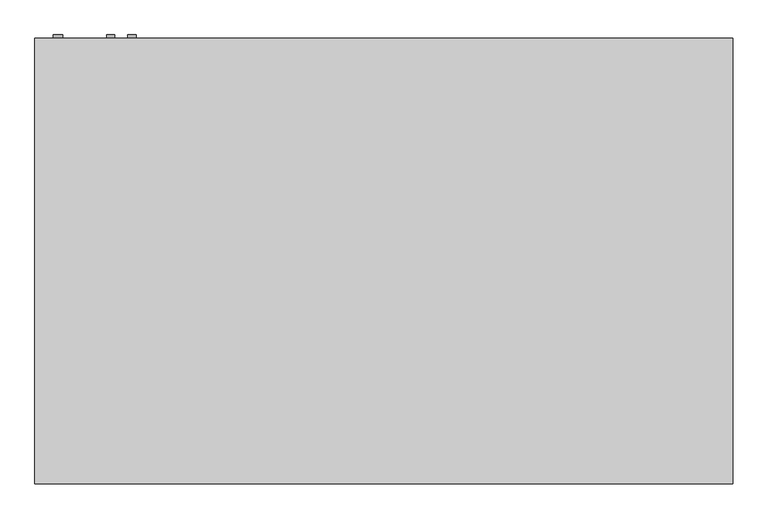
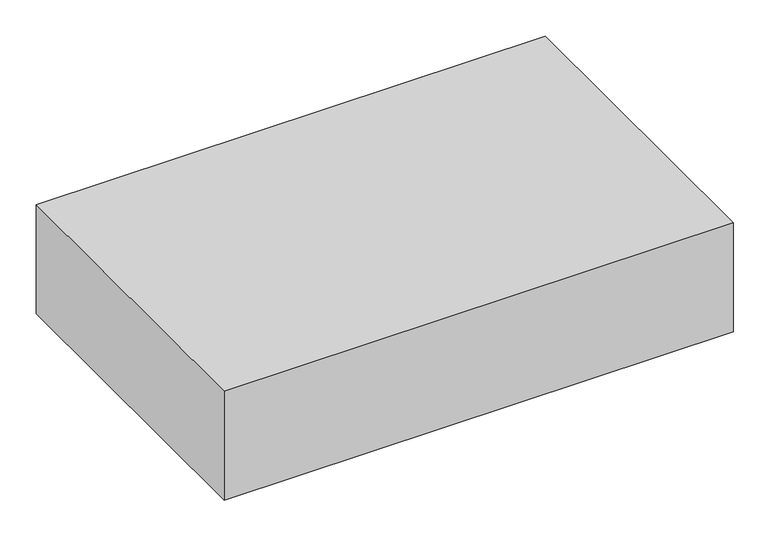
"""IFC4 building model written with IfcOpenShell, lengths in millimetres: proxy geometry, Exposed_Horizontal_Fan_Coil_Unit_-_42CGB_-_CARRIER_-_2-Pipe_Cool-EHeat_BS-BR_LH_2022 : Size 06 - 277v/60Hz/1Ph - 4 Row 6.0kW."""

import ifcopenshell
import ifcopenshell.guid

model = None  # the IFC model being written
_history = None  # IfcOwnerHistory: only IFC2X3 demands one
_inside = {}  # id of a spatial element -> (the spatial element, [elements in it])
_under = {}  # id of a project, library or spatial element -> (it, [spatial elements below it])
_declared = {}  # id of a project -> (the project, [libraries it declares])
_typed = {}  # id of a type object -> (the type object, [elements of that type])
_made_of = {}  # id of a material, layer set ... -> (it, [elements and type objects made of it])


def new_model(schema):
    """Start an empty IFC model of exactly this schema.

    Asked for "IFC4X3", IfcOpenShell would pick the latest addendum, in which some entities
    have other attributes; the version numbers below select the first issue.
    IFC2X3 requires an IfcOwnerHistory on every rooted entity: one is made here for all.
    """
    global model, _history
    if schema == "IFC4X3":
        model = ifcopenshell.file(schema_version=(4, 3, 0, 0))
    else:
        model = ifcopenshell.file(schema=schema)
    _inside.clear()
    _under.clear()
    _declared.clear()
    _typed.clear()
    _made_of.clear()
    _history = None
    if model.schema == "IFC2X3":
        org = make("IfcOrganization", Name="unknown")
        user = make(
            "IfcPersonAndOrganization",
            ThePerson=make("IfcPerson", FamilyName="unknown"),
            TheOrganization=org,
        )
        app = make(
            "IfcApplication",
            ApplicationDeveloper=org,
            Version="unknown",
            ApplicationFullName="unknown",
            ApplicationIdentifier="unknown",
        )
        _history = make(
            "IfcOwnerHistory",
            OwningUser=user,
            OwningApplication=app,
            ChangeAction="ADDED",
            CreationDate=0,
        )
    return model


def make(cls, **values):
    """One entity of the class cls with the attributes given. An attribute that is None is left unset."""
    return model.create_entity(
        cls, **{name: value for name, value in values.items() if value is not None}
    )


def rooted(cls, **values):
    """An entity with a GlobalId (a new one), such as an element, a storey or a relation."""
    return make(cls, GlobalId=ifcopenshell.guid.new(), OwnerHistory=_history, **values)


def si_unit(unit_type, name, prefix=None):
    """IfcSIUnit, for example si_unit("LENGTHUNIT", "METRE", prefix="MILLI")."""
    return make("IfcSIUnit", UnitType=unit_type, Prefix=prefix, Name=name)


def assignment(units):
    """IfcUnitAssignment: the units of a project."""
    return None if units is None else make("IfcUnitAssignment", Units=units)


def point(xyz):
    """IfcCartesianPoint."""
    return None if xyz is None else make("IfcCartesianPoint", Coordinates=xyz)


def direction(xyz):
    """IfcDirection."""
    return None if xyz is None else make("IfcDirection", DirectionRatios=xyz)


def frame(location, z_axis=None, x_axis=None):
    """IfcAxis2Placement3D, a coordinate frame: its origin and axes. An axis left out is left unset."""
    return make(
        "IfcAxis2Placement3D",
        Location=point(location),
        Axis=direction(z_axis),
        RefDirection=direction(x_axis),
    )


def frame_2d(location, x_axis=None):
    """IfcAxis2Placement2D, a coordinate frame in the plane: its origin and x axis."""
    return make(
        "IfcAxis2Placement2D", Location=point(location), RefDirection=direction(x_axis)
    )


def origin():
    """The frame at (0, 0, 0) with its axes left unset."""
    return frame((0.0, 0.0, 0.0))


def place(relative_to, where):
    """IfcLocalPlacement: puts the frame where relative to a parent placement (None: the world)."""
    return make(
        "IfcLocalPlacement", PlacementRelTo=relative_to, RelativePlacement=where
    )


def context(
    kind, dimensions, precision=None, world=None, true_north=None, identifier=None
):
    """IfcGeometricRepresentationContext, for example the 3D "Model" context."""
    return make(
        "IfcGeometricRepresentationContext",
        ContextIdentifier=identifier,
        ContextType=kind,
        CoordinateSpaceDimension=dimensions,
        Precision=precision,
        WorldCoordinateSystem=world,
        TrueNorth=true_north,
    )


def project(units=None, contexts=None):
    """IfcProject with its units and contexts."""
    return rooted(
        "IfcProject",
        Name="project",
        RepresentationContexts=contexts,
        UnitsInContext=assignment(units),
    )


def spatial(cls, under=None, at=None, **own):
    """A site, building, storey or space (cls), placed at a placement, below another one or the project."""
    s = rooted(cls, ObjectPlacement=at, **own)
    if under is not None:
        _under.setdefault(under.id(), (under, []))[1].append(s)
    return s


def polyline(points):
    """IfcPolyline through the points."""
    return make("IfcPolyline", Points=[point(p) for p in points])


def circle_curve(where, radius):
    """IfcCircle in the frame where."""
    return make("IfcCircle", Position=where, Radius=radius)


def trimmed(basis, trim1, trim2, sense, master):
    """IfcTrimmedCurve: the piece of a basis curve between two trims."""
    return make(
        "IfcTrimmedCurve",
        BasisCurve=basis,
        Trim1=trim1,
        Trim2=trim2,
        SenseAgreement=sense,
        MasterRepresentation=master,
    )


def segment(curve, same_sense, transition):
    """IfcCompositeCurveSegment."""
    return make(
        "IfcCompositeCurveSegment",
        Transition=transition,
        SameSense=same_sense,
        ParentCurve=curve,
    )


def composite_curve(segments, self_intersect=None):
    """IfcCompositeCurve: segments joined end to end."""
    return make("IfcCompositeCurve", Segments=segments, SelfIntersect=self_intersect)


def outline(outer, holes=None, kind="AREA"):
    """IfcArbitraryClosedProfileDef: a profile drawn as a closed curve; with holes, ...WithVoids."""
    if holes is None:
        return make("IfcArbitraryClosedProfileDef", ProfileType=kind, OuterCurve=outer)
    return make(
        "IfcArbitraryProfileDefWithVoids",
        ProfileType=kind,
        OuterCurve=outer,
        InnerCurves=holes,
    )


def extrude(swept, where, along, depth):
    """IfcExtrudedAreaSolid: the profile swept, set in the frame where, extruded along a direction by depth."""
    return make(
        "IfcExtrudedAreaSolid",
        SweptArea=swept,
        Position=where,
        ExtrudedDirection=direction(along),
        Depth=depth,
    )


def shape(context_of_items, identifier, shape_type, items):
    """IfcShapeRepresentation: the items that make up one representation, for example the "Body"."""
    return make(
        "IfcShapeRepresentation",
        ContextOfItems=context_of_items,
        RepresentationIdentifier=identifier,
        RepresentationType=shape_type,
        Items=items,
    )


def source(mapping_origin, context_of_items, identifier, shape_type, items):
    """IfcRepresentationMap: a shape defined once, which mapped items show again and again."""
    return make(
        "IfcRepresentationMap",
        MappingOrigin=mapping_origin,
        MappedRepresentation=shape(context_of_items, identifier, shape_type, items),
    )


def transform(
    local_origin,
    x_axis=None,
    y_axis=None,
    z_axis=None,
    scale=None,
    scale2=None,
    scale3=None,
    uniform=True,
):
    """IfcCartesianTransformationOperator3D, or its non-uniform kind. x_axis, y_axis, z_axis: its Axis1, 2, 3."""
    if uniform:
        return make(
            "IfcCartesianTransformationOperator3D",
            Axis1=direction(x_axis),
            Axis2=direction(y_axis),
            LocalOrigin=point(local_origin),
            Scale=scale,
            Axis3=direction(z_axis),
        )
    return make(
        "IfcCartesianTransformationOperator3DnonUniform",
        Axis1=direction(x_axis),
        Axis2=direction(y_axis),
        LocalOrigin=point(local_origin),
        Scale=scale,
        Axis3=direction(z_axis),
        Scale2=scale2,
        Scale3=scale3,
    )


def mapped(mapping_source, mapping_target):
    """IfcMappedItem: shows the shape of a source again, moved by a transform."""
    return make(
        "IfcMappedItem", MappingSource=mapping_source, MappingTarget=mapping_target
    )


def made_of(thing, what):
    """Note that an element or type object is made of a material, layer set ...; save() writes the relation."""
    if what is not None:
        _made_of.setdefault(what.id(), (what, []))[1].append(thing)
    return thing


def element(
    cls,
    number,
    at=None,
    inside=None,
    cuts=None,
    type_object=None,
    material=None,
    context=None,
    identifier="Body",
    shape_type=None,
    held_by="IfcProductDefinitionShape",
    body=None,
    shapes=None,
    **own,
):
    """One element of the class cls, such as IfcWall. Its Tag is "e" and its number.

    at: its placement. inside: the storey or other place that contains it. cuts: it is an
    opening in that element (IfcRelVoidsElement). A single representation is given by context,
    identifier, shape_type and body (its items); several are given by shapes. held_by: the class
    of the entity that holds the representations. save() writes the other relations.
    """
    e = rooted(cls, Tag="e%d" % number, ObjectPlacement=at, **own)
    if body is not None:
        shapes = [shape(context, identifier, shape_type, body)]
    if shapes is not None:
        e.Representation = make(held_by, Representations=shapes)
    if inside is not None:
        _inside.setdefault(inside.id(), (inside, []))[1].append(e)
    if cuts is not None:
        rooted(
            "IfcRelVoidsElement", RelatingBuildingElement=cuts, RelatedOpeningElement=e
        )
    if type_object is not None:
        _typed.setdefault(type_object.id(), (type_object, []))[1].append(e)
    return made_of(e, material)


def aggregate(whole, parts):
    """IfcRelAggregates: a whole, such as a stair, and the parts it consists of."""
    return rooted("IfcRelAggregates", RelatingObject=whole, RelatedObjects=parts)


def save(model, path):
    """Write the relations noted so far, then the file.

    IfcRelAggregates (storeys below a building ...), IfcRelContainedInSpatialStructure (elements
    in a storey), IfcRelDefinesByType, IfcRelAssociatesMaterial and IfcRelDeclares: one each for
    every whole, place, type object, material and project.
    """
    for whole, parts in _under.values():
        aggregate(whole, parts)
    for where, things in _inside.values():
        rooted(
            "IfcRelContainedInSpatialStructure",
            RelatedElements=things,
            RelatingStructure=where,
        )
    for kind, things in _typed.values():
        rooted("IfcRelDefinesByType", RelatedObjects=things, RelatingType=kind)
    for what, things in _made_of.values():
        rooted("IfcRelAssociatesMaterial", RelatedObjects=things, RelatingMaterial=what)
    for by, libraries in _declared.values():
        rooted("IfcRelDeclares", RelatingContext=by, RelatedDefinitions=libraries)
    model.write(path)


def mechanical_equipment_149bba12(model_context):
    return source(origin(), model_context, "Body", "SweptSolid", [
        extrude(outline(polyline([(592.1375, -439.7375), (592.1375, -611.1875), (-287.3375, -611.1875), (-287.3375, -439.7375), (592.1375, -439.7375)])), frame((0.0, 0.0, -311.15), z_axis=(0.0, 0.0, 1.0), x_axis=(1.0, 0.0, 0.0)), (0.0, 0.0, 1.0), 6.35),
        extrude(outline(composite_curve([segment(trimmed(circle_curve(frame_2d((-60.325, -333.375)), 7.9375), [point((-60.325, -325.4375))], [point((-60.325, -341.3125))], False, "CARTESIAN"), True, "CONTINUOUS"), segment(trimmed(circle_curve(frame_2d((-60.325, -333.375)), 7.9375), [point((-60.325, -341.3125))], [point((-60.325, -325.4375))], False, "CARTESIAN"), True, "CONTINUOUS")], self_intersect=False)), frame((0.0, 192.0875, 0.0), z_axis=(0.0, 1.0, 0.0), x_axis=(0.0, 0.0, 1.0)), (0.0, 0.0, 1.0), 6.35),
        extrude(outline(composite_curve([segment(trimmed(circle_curve(frame_2d((-95.25, -374.65)), 7.9375), [point((-95.25, -366.7125))], [point((-95.25, -382.5875))], False, "CARTESIAN"), True, "CONTINUOUS"), segment(trimmed(circle_curve(frame_2d((-95.25, -374.65)), 7.9375), [point((-95.25, -382.5875))], [point((-95.25, -366.7125))], False, "CARTESIAN"), True, "CONTINUOUS")], self_intersect=False)), frame((0.0, 192.0875, 0.0), z_axis=(0.0, 1.0, 0.0), x_axis=(0.0, 0.0, 1.0)), (0.0, 0.0, 1.0), 6.35),
        extrude(outline(composite_curve([segment(trimmed(circle_curve(frame_2d((-260.35, -476.25)), 9.525), [point((-260.35, -466.725))], [point((-260.35, -485.775))], False, "CARTESIAN"), True, "CONTINUOUS"), segment(trimmed(circle_curve(frame_2d((-260.35, -476.25)), 9.525), [point((-260.35, -485.775))], [point((-260.35, -466.725))], False, "CARTESIAN"), True, "CONTINUOUS")], self_intersect=False)), frame((0.0, 192.0875, 0.0), z_axis=(0.0, 1.0, 0.0), x_axis=(0.0, 0.0, 1.0)), (0.0, 0.0, 1.0), 6.35),
        extrude(outline(polyline([(-520.7, 192.0875), (825.5, 192.0875), (825.5, -668.3375), (-520.7, -668.3375), (-520.7, 192.0875)])), frame((0.0, 0.0, -304.8), z_axis=(0.0, 0.0, 1.0), x_axis=(1.0, 0.0, 0.0)), (0.0, 0.0, 1.0), 304.8),
        extrude(outline(polyline([(622.3, 115.8875), (622.3, -138.1125), (-317.5, -138.1125), (-317.5, 115.8875), (622.3, 115.8875)])), frame((0.0, 0.0, -311.15), z_axis=(0.0, 0.0, 1.0), x_axis=(1.0, 0.0, 0.0)), (0.0, 0.0, 1.0), 6.35),
    ])


if __name__ == "__main__":
    model = new_model("IFC4")
    model_context = context("Model", 3, world=origin())
    ifc_project = project(units=[si_unit("LENGTHUNIT", "METRE", prefix="MILLI")], contexts=[model_context])
    site = spatial("IfcSite", under=ifc_project)
    building = spatial("IfcBuilding", under=site)
    placement = place(None, origin())
    mechanical_equipment_shape = mechanical_equipment_149bba12(model_context)
    element("IfcBuildingElementProxy", 1, Name="Exposed_Horizontal_Fan_Coil_Unit_-_42CGB_-_CARRIER_-_2-Pipe_Cool-EHeat_BS-BR_LH_2022 : Size 06 - 277v/60Hz/1Ph - 4 Row 6.0kW", ObjectType="Exposed_Horizontal_Fan_Coil_Unit_-_42CGB_-_CARRIER_-_2-Pipe_Cool-EHeat_BS-BR_LH_2022 : Size 06 - 277v/60Hz/1Ph - 4 Row 6.0kW", at=placement, inside=building, context=model_context, shape_type="MappedRepresentation", body=[
        mapped(mechanical_equipment_shape, transform((0.0, 0.0, 0.0), x_axis=(1.0, 0.0, 0.0), y_axis=(0.0, 1.0, 0.0), z_axis=(0.0, 0.0, 1.0))),
    ])
    save(model, "model.ifc")
